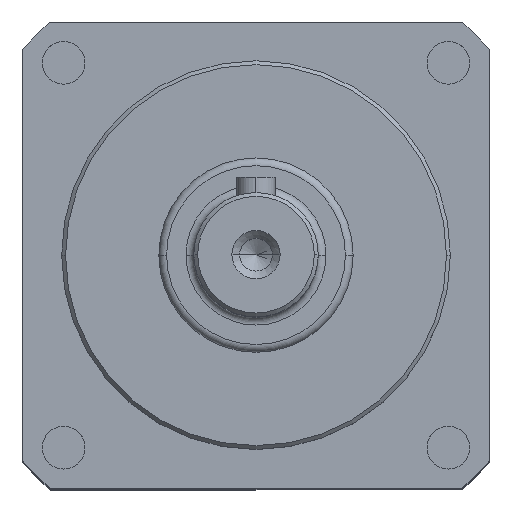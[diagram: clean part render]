
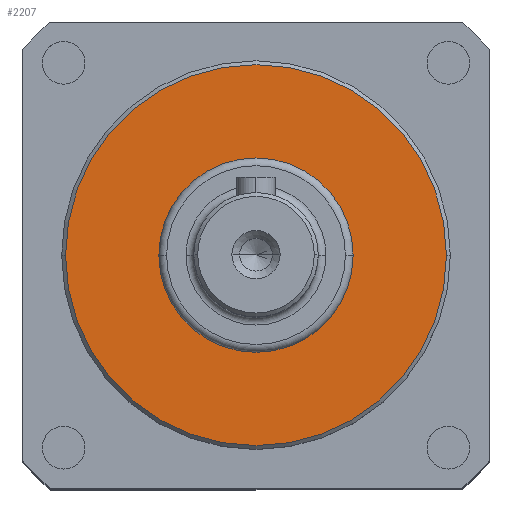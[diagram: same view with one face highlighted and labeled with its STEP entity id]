
A CAD part, top view. The second image highlights one B-rep face of the part: STEP entity #2207.
In plain terms, the highlighted planar face has unit normal (0, 0, 1).
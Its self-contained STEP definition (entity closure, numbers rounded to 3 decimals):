
#109 = VERTEX_POINT ( 'NONE', #5057 ) ;
#222 = CIRCLE ( 'NONE', #5213, 12.5 ) ;
#226 = CARTESIAN_POINT ( 'NONE',  ( -12.5, 0., 13. ) ) ;
#482 = EDGE_LOOP ( 'NONE', ( #2453, #4320 ) ) ;
#715 = EDGE_CURVE ( 'NONE', #943, #3244, #4507, .T. ) ;
#898 = CARTESIAN_POINT ( 'NONE',  ( 0., 0., 13. ) ) ;
#943 = VERTEX_POINT ( 'NONE', #2217 ) ;
#1105 = AXIS2_PLACEMENT_3D ( 'NONE', #5575, #2523, #1273 ) ;
#1273 = DIRECTION ( 'NONE',  ( 1., 0., 0. ) ) ;
#1308 = AXIS2_PLACEMENT_3D ( 'NONE', #4118, #5015, #4092 ) ;
#1319 = DIRECTION ( 'NONE',  ( 1., 0., 0. ) ) ;
#1329 = CIRCLE ( 'NONE', #1495, 24.5 ) ;
#1390 = DIRECTION ( 'NONE',  ( 0., 0., 1. ) ) ;
#1465 = VERTEX_POINT ( 'NONE', #2891 ) ;
#1495 = AXIS2_PLACEMENT_3D ( 'NONE', #898, #1745, #1319 ) ;
#1745 = DIRECTION ( 'NONE',  ( 0., 0., 1. ) ) ;
#1813 = CARTESIAN_POINT ( 'NONE',  ( 0., 0., 13. ) ) ;
#1814 = EDGE_CURVE ( 'NONE', #3244, #943, #222, .T. ) ;
#1869 = EDGE_CURVE ( 'NONE', #1465, #109, #2177, .T. ) ;
#2177 = CIRCLE ( 'NONE', #1308, 24.5 ) ;
#2207 = ADVANCED_FACE ( 'NONE', ( #2729, #4632 ), #5552, .T. ) ;
#2217 = CARTESIAN_POINT ( 'NONE',  ( 12.5, 0., 13. ) ) ;
#2413 = ORIENTED_EDGE ( 'NONE', *, *, #1869, .T. ) ;
#2453 = ORIENTED_EDGE ( 'NONE', *, *, #1814, .F. ) ;
#2523 = DIRECTION ( 'NONE',  ( 0., 0., 1. ) ) ;
#2678 = AXIS2_PLACEMENT_3D ( 'NONE', #5548, #4276, #3811 ) ;
#2729 = FACE_BOUND ( 'NONE', #482, .T. ) ;
#2891 = CARTESIAN_POINT ( 'NONE',  ( 24.5, 0., 13. ) ) ;
#3244 = VERTEX_POINT ( 'NONE', #226 ) ;
#3700 = EDGE_LOOP ( 'NONE', ( #3841, #2413 ) ) ;
#3811 = DIRECTION ( 'NONE',  ( 1., 0., 0. ) ) ;
#3841 = ORIENTED_EDGE ( 'NONE', *, *, #5599, .T. ) ;
#4092 = DIRECTION ( 'NONE',  ( 1., 0., 0. ) ) ;
#4118 = CARTESIAN_POINT ( 'NONE',  ( 0., 0., 13. ) ) ;
#4276 = DIRECTION ( 'NONE',  ( 0., 0., 1. ) ) ;
#4320 = ORIENTED_EDGE ( 'NONE', *, *, #715, .F. ) ;
#4507 = CIRCLE ( 'NONE', #2678, 12.5 ) ;
#4632 = FACE_OUTER_BOUND ( 'NONE', #3700, .T. ) ;
#5015 = DIRECTION ( 'NONE',  ( 0., 0., 1. ) ) ;
#5057 = CARTESIAN_POINT ( 'NONE',  ( -24.5, 0., 13. ) ) ;
#5213 = AXIS2_PLACEMENT_3D ( 'NONE', #1813, #1390, #5330 ) ;
#5330 = DIRECTION ( 'NONE',  ( 1., 0., 0. ) ) ;
#5548 = CARTESIAN_POINT ( 'NONE',  ( 0., 0., 13. ) ) ;
#5552 = PLANE ( 'NONE',  #1105 ) ;
#5575 = CARTESIAN_POINT ( 'NONE',  ( 0., 0., 13. ) ) ;
#5599 = EDGE_CURVE ( 'NONE', #109, #1465, #1329, .T. ) ;
